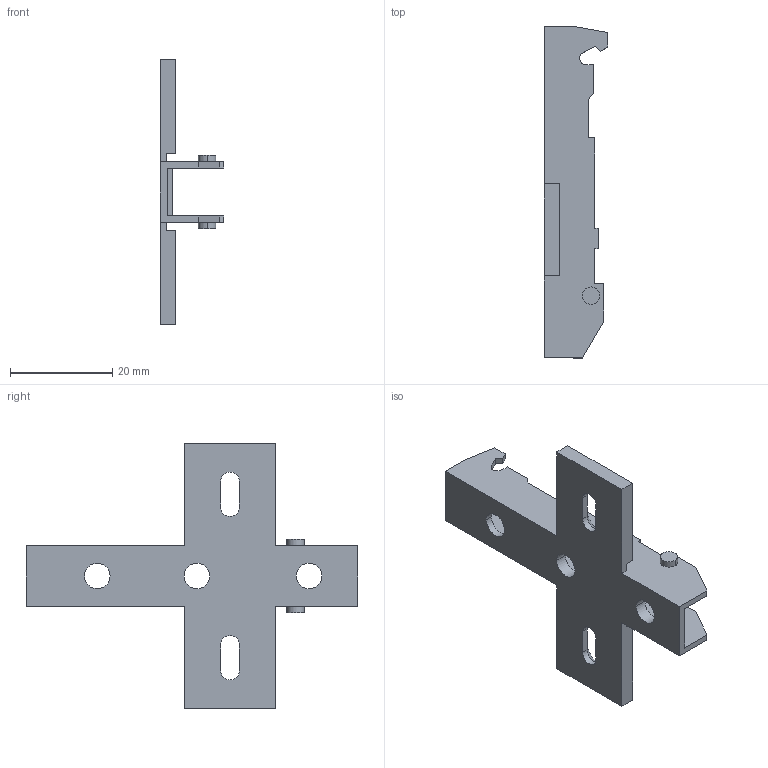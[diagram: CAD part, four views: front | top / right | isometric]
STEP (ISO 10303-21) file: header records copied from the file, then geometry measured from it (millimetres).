
FILE_DESCRIPTION (( 'STEP AP214' ), '1' );
FILE_NAME ('Eco Kreuzmontageplatte LR37_32_Spax_H02.step', '2010-11-18T10:05:39', ( 'grass' ), ( '' ), 'SwSTEP 2.0', 'SolidWorks 2010', '' );
FILE_SCHEMA (( 'AUTOMOTIVE_DESIGN' ));
Length unit declared in the file: millimetre
Products named in the file (1): Eco Kreuzmontageplatte LR37_32_Spax_H02
Bounding box: 12.5 x 65 x 52 mm (x, y, z)
Volume: 4417.1 mm3; surface area: 5781.2 mm2
Topology: 1 solids, 1 shells, 94 faces, 260 edges, 170 vertices
Faces by surface type: plane 70, cylinder 18, cone 6
Entity records: 3020 total; most frequent: CARTESIAN_POINT 525, ORIENTED_EDGE 520, DIRECTION 492, EDGE_CURVE 260, VECTOR 218, LINE 218, VERTEX_POINT 170, AXIS2_PLACEMENT_3D 137
